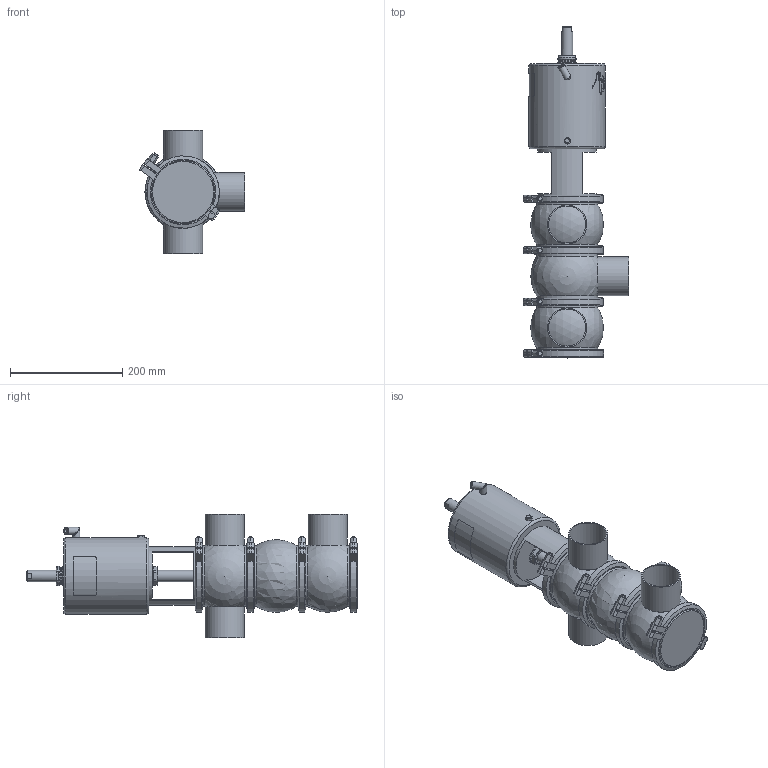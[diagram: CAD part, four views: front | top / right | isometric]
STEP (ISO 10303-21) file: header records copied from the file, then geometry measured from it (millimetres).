
FILE_DESCRIPTION (( 'STEP AP214' ), '1' );
FILE_NAME ('INNOVA L P W DIN 065 T3 AS NC_10.241.16.0016.STEP', '2024-08-07T07:40:34', ( '' ), ( '' ), 'SwSTEP 2.0', 'SolidWorks 2023', '' );
FILE_SCHEMA (( 'AUTOMOTIVE_DESIGN' ));
Length unit declared in the file: millimetre
Products named in the file (7): 10.241.15.0001_DIN 065; 10.240.15.0014_T3 AS P180; 10.240.15.0010_DN 065; 10.240.15.0007_DIN 065; 10.240.15.0006_DIN 065; 10.240.15.0001_DN 065; INNOVA L P W DIN 065 T3 AS NC_10.241.16.0016
Assembly tree (10 placements, depth 2):
  INNOVA L P W DIN 065 T3 AS NC_10.241.16.0016
    10.240.15.0007_DIN 065
    10.240.15.0006_DIN 065  x2
    10.240.15.0010_DN 065
    10.240.15.0014_T3 AS P180
    10.240.15.0001_DN 065  x4
    10.241.15.0001_DIN 065
Bounding box: 188.15 x 592.5 x 220 mm (x, y, z)
Volume: 5924086.4 mm3; surface area: 561307.7 mm2
Topology: 11 solids, 11 shells, 540 faces, 1411 edges, 920 vertices
Faces by surface type: plane 265, cylinder 138, bspline 80, cone 46, sphere 7, torus 4
Full cylindrical faces by diameter (mm): 6.15 x1, 8 x9, 8.5 x1, 10.5 x1, 12.5 x3, 16 x1, 20 x2, 31 x1, 34.5 x2, 36.5 x1, 66 x4, 70 x4, 105 x1, 109 x7, 121 x8, 136 x1
Entity records: 20811 total; most frequent: CARTESIAN_POINT 11331, ORIENTED_EDGE 1630, DIRECTION 1287, EDGE_CURVE 815, VERTEX_POINT 566, AXIS2_PLACEMENT_3D 499, EDGE_LOOP 437, FACE_OUTER_BOUND 389
